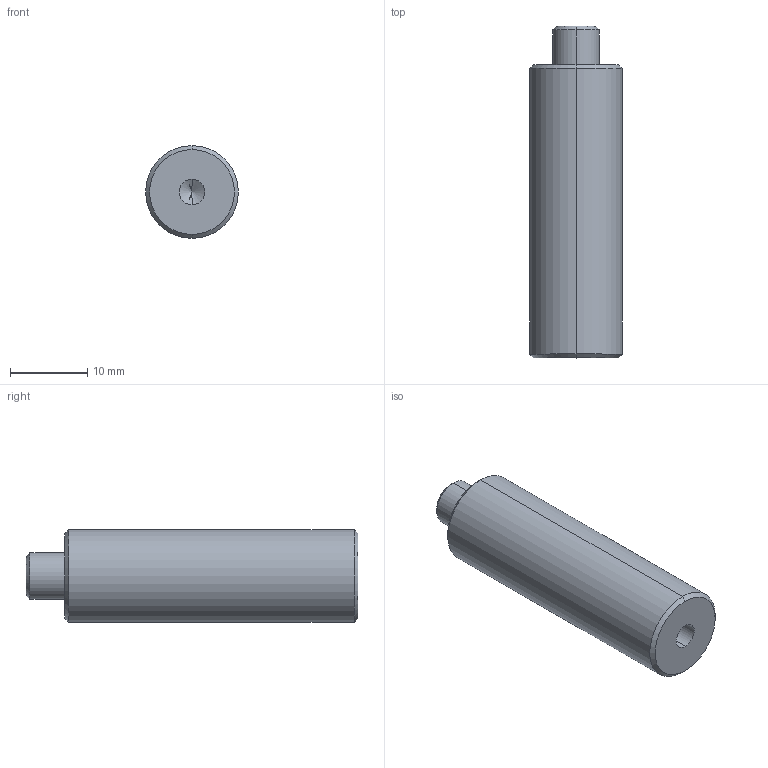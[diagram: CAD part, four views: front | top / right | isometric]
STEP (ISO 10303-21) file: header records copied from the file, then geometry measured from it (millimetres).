
FILE_DESCRIPTION (( 'STEP AP203' ), '1' );
FILE_NAME ('(STEP)M-PDJ12-38.STEP', '2020-04-01T07:12:43', ( '' ), ( '' ), 'SwSTEP 2.0', 'SolidWorks 2019', '' );
FILE_SCHEMA (( 'CONFIG_CONTROL_DESIGN' ));
Length unit declared in the file: millimetre
Products named in the file (1): (STEP)M-PDJ12-38
Bounding box: 12 x 43 x 12 mm (x, y, z)
Volume: 4338.5 mm3; surface area: 1830.6 mm2
Topology: 1 solids, 1 shells, 17 faces, 34 edges, 19 vertices
Faces by surface type: cone 8, cylinder 6, plane 3
Entity records: 505 total; most frequent: DIRECTION 86, CARTESIAN_POINT 69, ORIENTED_EDGE 64, AXIS2_PLACEMENT_3D 36, EDGE_CURVE 32, EDGE_LOOP 19, VERTEX_POINT 19, CIRCLE 18
